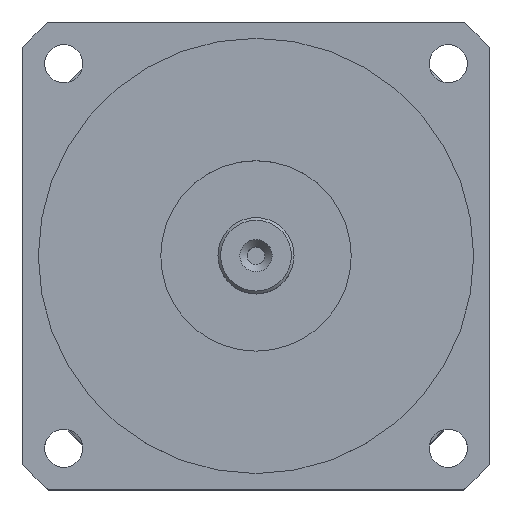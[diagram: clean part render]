
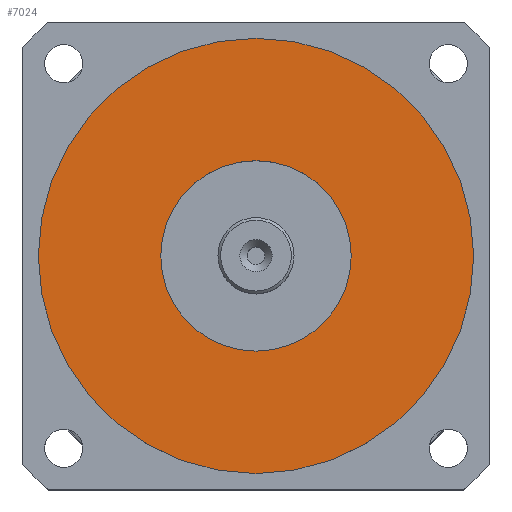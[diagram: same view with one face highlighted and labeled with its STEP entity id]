
A CAD part, top view. The second image highlights one B-rep face of the part: STEP entity #7024.
In plain terms, the highlighted planar face has unit normal (0, 0, 1).
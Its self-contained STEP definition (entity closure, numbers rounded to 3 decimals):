
#2610=VERTEX_POINT('',#10495);
#2611=VERTEX_POINT('',#10499);
#3090=CIRCLE('',#7596,17.5);
#3091=CIRCLE('',#7599,40.);
#3623=EDGE_CURVE('',#2610,#2610,#3090,.T.);
#3624=EDGE_CURVE('',#2611,#2611,#3091,.T.);
#4657=ORIENTED_EDGE('',*,*,#3624,.F.);
#4658=ORIENTED_EDGE('',*,*,#3623,.T.);
#6055=EDGE_LOOP('',(#4657));
#6056=EDGE_LOOP('',(#4658));
#6559=FACE_BOUND('',#6055,.T.);
#6560=FACE_BOUND('',#6056,.T.);
#7024=ADVANCED_FACE('',(#6559,#6560),#8722,.F.);
#7596=AXIS2_PLACEMENT_3D('',#10494,#12943,#12944);
#7599=AXIS2_PLACEMENT_3D('',#10498,#12948,#12949);
#7601=AXIS2_PLACEMENT_3D('',#10502,#12952,$);
#8722=PLANE('',#7601);
#10494=CARTESIAN_POINT('',(0.,0.,177.));
#10495=CARTESIAN_POINT('',(17.5,0.,177.));
#10498=CARTESIAN_POINT('',(0.,0.,177.));
#10499=CARTESIAN_POINT('',(40.,0.,177.));
#10502=CARTESIAN_POINT('',(0.,0.,177.));
#12943=DIRECTION('',(0.,0.,-1.));
#12944=DIRECTION('',(-17.5,0.,0.));
#12948=DIRECTION('',(0.,0.,-1.));
#12949=DIRECTION('',(-40.,0.,0.));
#12952=DIRECTION('',(0.,0.,-1.));
